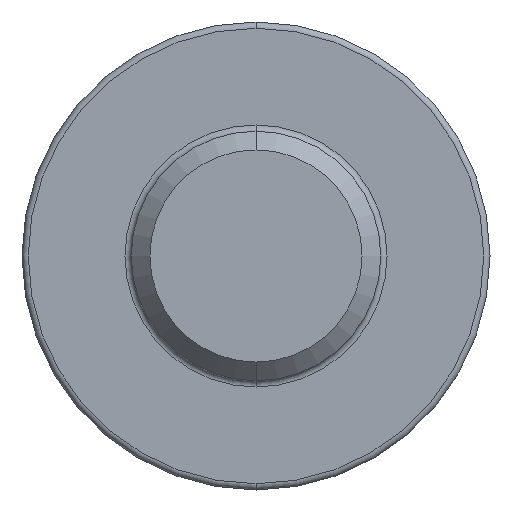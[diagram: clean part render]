
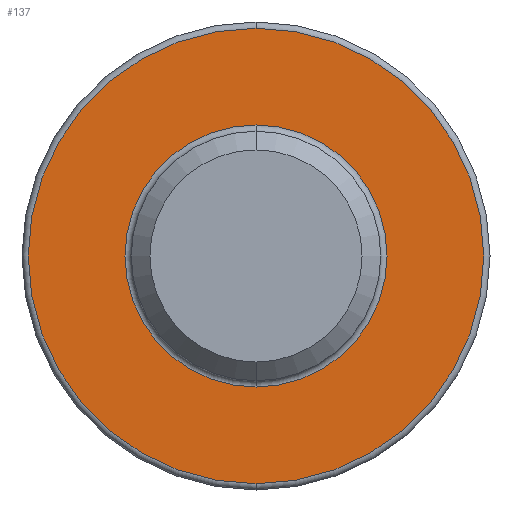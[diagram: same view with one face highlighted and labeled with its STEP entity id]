
A CAD part, front view. The second image highlights one B-rep face of the part: STEP entity #137.
In plain terms, the highlighted planar face has unit normal (0, -1, 0).
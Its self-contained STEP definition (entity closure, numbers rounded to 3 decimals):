
#1 = DIRECTION ( 'NONE',  ( 0., 0., 1. ) ) ;
#48 = DIRECTION ( 'NONE',  ( 0., -1., 0. ) ) ;
#78 = EDGE_CURVE ( 'NONE', #514, #120, #221, .T. ) ;
#79 = CARTESIAN_POINT ( 'NONE',  ( 0., -2.4, 0. ) ) ;
#81 = AXIS2_PLACEMENT_3D ( 'NONE', #314, #423, #697 ) ;
#85 = EDGE_CURVE ( 'NONE', #120, #514, #345, .T. ) ;
#96 = EDGE_LOOP ( 'NONE', ( #316, #787 ) ) ;
#120 = VERTEX_POINT ( 'NONE', #258 ) ;
#137 = ADVANCED_FACE ( 'NONE', ( #605, #792 ), #539, .F. ) ;
#152 = CIRCLE ( 'NONE', #265, 2.1 ) ;
#197 = DIRECTION ( 'NONE',  ( 0., 1., 0. ) ) ;
#221 = CIRCLE ( 'NONE', #833, 3.65 ) ;
#258 = CARTESIAN_POINT ( 'NONE',  ( 0., -2.4, -3.65 ) ) ;
#265 = AXIS2_PLACEMENT_3D ( 'NONE', #534, #646, #459 ) ;
#297 = ORIENTED_EDGE ( 'NONE', *, *, #378, .T. ) ;
#307 = ORIENTED_EDGE ( 'NONE', *, *, #327, .T. ) ;
#314 = CARTESIAN_POINT ( 'NONE',  ( 0., -2.4, 0. ) ) ;
#316 = ORIENTED_EDGE ( 'NONE', *, *, #78, .T. ) ;
#327 = EDGE_CURVE ( 'NONE', #579, #836, #649, .T. ) ;
#345 = CIRCLE ( 'NONE', #81, 3.65 ) ;
#378 = EDGE_CURVE ( 'NONE', #836, #579, #152, .T. ) ;
#386 = EDGE_LOOP ( 'NONE', ( #307, #297 ) ) ;
#423 = DIRECTION ( 'NONE',  ( 0., -1., 0. ) ) ;
#448 = CARTESIAN_POINT ( 'NONE',  ( 2., -2.4, 0. ) ) ;
#457 = CARTESIAN_POINT ( 'NONE',  ( 0., -2.4, -2.1 ) ) ;
#459 = DIRECTION ( 'NONE',  ( 0., 0., 1. ) ) ;
#514 = VERTEX_POINT ( 'NONE', #611 ) ;
#534 = CARTESIAN_POINT ( 'NONE',  ( 0., -2.4, 0. ) ) ;
#539 = PLANE ( 'NONE',  #635 ) ;
#570 = AXIS2_PLACEMENT_3D ( 'NONE', #79, #820, #805 ) ;
#579 = VERTEX_POINT ( 'NONE', #678 ) ;
#605 = FACE_BOUND ( 'NONE', #386, .T. ) ;
#611 = CARTESIAN_POINT ( 'NONE',  ( 0., -2.4, 3.65 ) ) ;
#635 = AXIS2_PLACEMENT_3D ( 'NONE', #448, #197, #1 ) ;
#641 = CARTESIAN_POINT ( 'NONE',  ( 0., -2.4, 0. ) ) ;
#646 = DIRECTION ( 'NONE',  ( 0., 1., 0. ) ) ;
#649 = CIRCLE ( 'NONE', #570, 2.1 ) ;
#678 = CARTESIAN_POINT ( 'NONE',  ( 0., -2.4, 2.1 ) ) ;
#697 = DIRECTION ( 'NONE',  ( 0., 0., 1. ) ) ;
#708 = DIRECTION ( 'NONE',  ( 0., 0., 1. ) ) ;
#787 = ORIENTED_EDGE ( 'NONE', *, *, #85, .T. ) ;
#792 = FACE_OUTER_BOUND ( 'NONE', #96, .T. ) ;
#805 = DIRECTION ( 'NONE',  ( 0., 0., 1. ) ) ;
#820 = DIRECTION ( 'NONE',  ( 0., 1., 0. ) ) ;
#833 = AXIS2_PLACEMENT_3D ( 'NONE', #641, #48, #708 ) ;
#836 = VERTEX_POINT ( 'NONE', #457 ) ;
